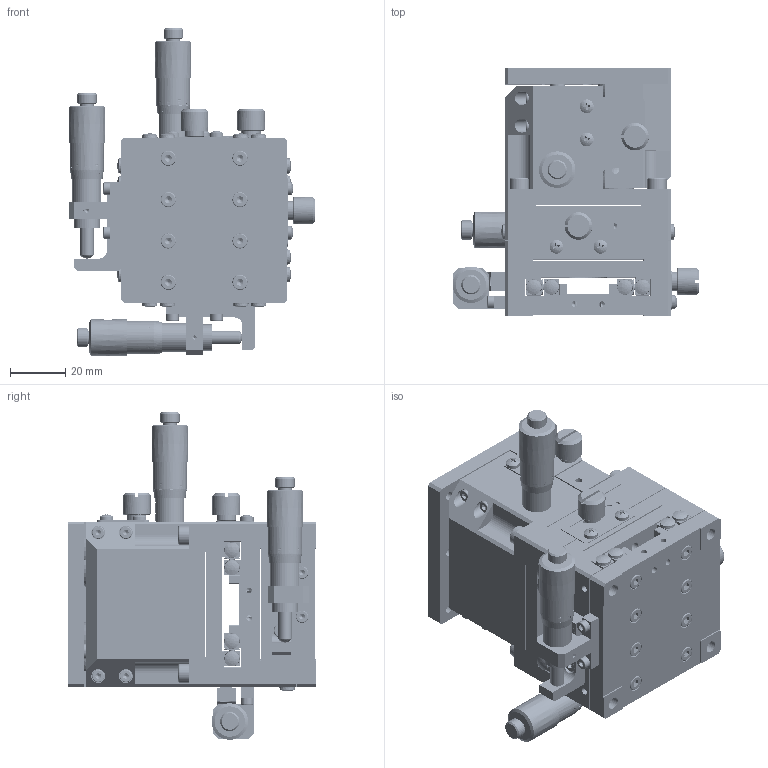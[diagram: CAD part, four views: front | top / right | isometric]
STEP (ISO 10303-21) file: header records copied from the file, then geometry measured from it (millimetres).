
FILE_DESCRIPTION (( 'STEP AP203' ), '1' );
FILE_NAME ('BLD60.STEP', '2024-07-27T06:32:52', ( 'Windows User' ), ( 'P R C' ), 'SwSTEP 2.0', 'SolidWorks 2024', '' );
FILE_SCHEMA (( 'CONFIG_CONTROL_DESIGN' ));
Products named in the file (1): BLD60
Bounding box: 89.4 x 90 x 118.72 mm (x, y, z)
Volume: 274709.6 mm3; surface area: 154611.4 mm2
Topology: 105 solids, 105 shells, 5234 faces, 12943 edges, 8318 vertices
Faces by surface type: plane 2279, bspline 1201, cylinder 1001, cone 682, torus 61, sphere 10
Full cylindrical faces by diameter (mm): 2 x44, 2.05 x43, 2.5 x65, 2.55 x44, 2.6 x2, 2.9 x4, 2.95 x27, 3 x47, 3.1 x4, 3.2 x4, 3.3 x25, 3.4 x43, 4 x4, 4.3 x1, 4.4 x44, 4.5 x20, 5 x22, 5.5 x45, 5.8 x4, 6 x44, 7 x13, 8 x8, 8.5 x5, 9.5 x6, 10 x3, 10.5 x3, 11 x1, 12.2 x3, 15 x3
Entity records: 242340 total; most frequent: CARTESIAN_POINT 135414, ORIENTED_EDGE 23046, DIRECTION 17389, EDGE_CURVE 11523, VERTEX_POINT 7957, EDGE_LOOP 7212, AXIS2_PLACEMENT_3D 6500, FACE_OUTER_BOUND 5823
